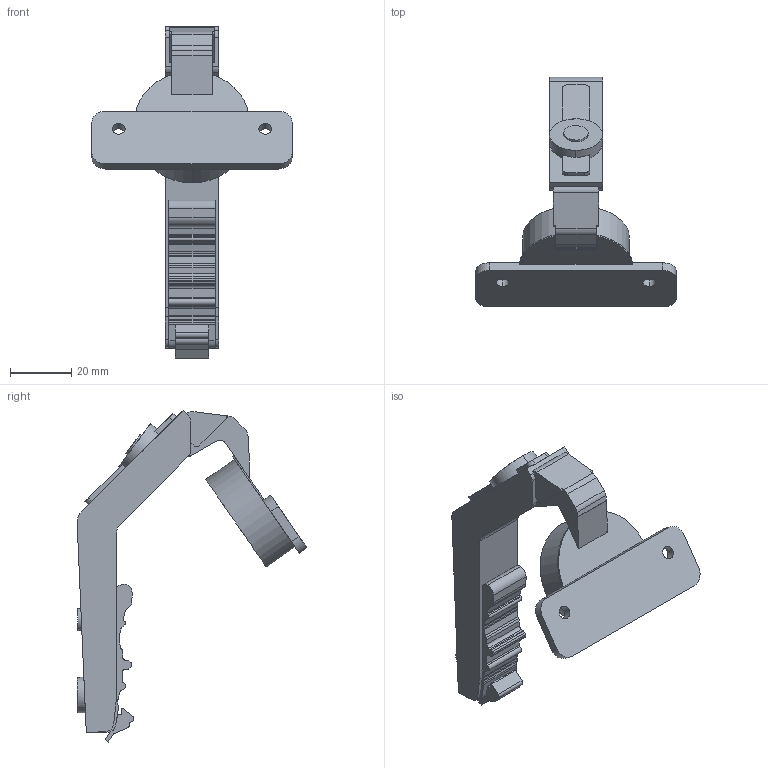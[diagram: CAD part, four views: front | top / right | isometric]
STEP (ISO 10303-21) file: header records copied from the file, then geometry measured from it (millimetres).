
FILE_DESCRIPTION (( 'STEP AP203' ), '1' );
FILE_NAME ('C82H676A-DTC 3D open.STEP', '2024-09-06T09:10:44', ( '微软用户' ), ( '微软中国' ), 'SwSTEP 2.0', 'SolidWorks 2021', '' );
FILE_SCHEMA (( 'CONFIG_CONTROL_DESIGN' ));
Length unit declared in the file: millimetre
Products named in the file (1): C82H676A-DTC 3D open
Bounding box: 65.6 x 75.29 x 108.79 mm (x, y, z)
Volume: 44460.6 mm3; surface area: 14407.5 mm2
Topology: 1 solids, 1 shells, 160 faces, 456 edges, 304 vertices
Faces by surface type: cylinder 80, plane 80
Entity records: 5341 total; most frequent: CARTESIAN_POINT 957, DIRECTION 922, ORIENTED_EDGE 912, EDGE_CURVE 456, AXIS2_PLACEMENT_3D 317, VERTEX_POINT 304, VECTOR 288, LINE 288
